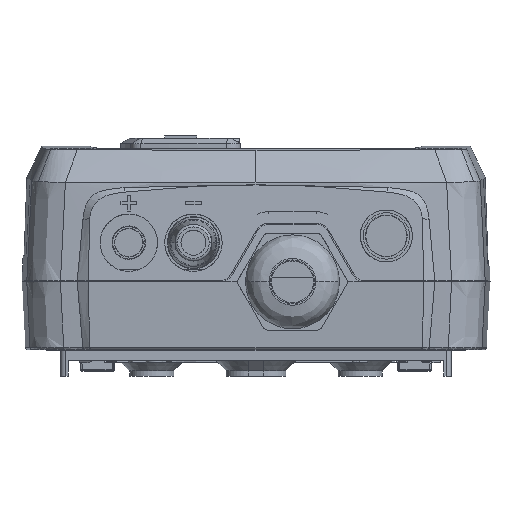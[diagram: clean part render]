
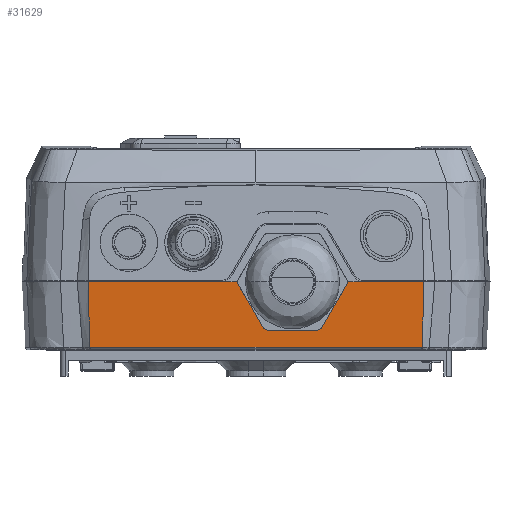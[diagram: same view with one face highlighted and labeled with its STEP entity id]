
A CAD part, front view. The second image highlights one B-rep face of the part: STEP entity #31629.
In plain terms, the highlighted planar face has unit normal (0, -0.999, -0.052).
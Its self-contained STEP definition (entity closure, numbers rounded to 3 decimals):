
#4316=CARTESIAN_POINT('',(31.894,-39.343,
-12.53));
#4318=CARTESIAN_POINT('',(31.894,-39.343,
-12.53));
#4319=CARTESIAN_POINT('',(31.965,-39.425,
-10.965));
#4320=CARTESIAN_POINT('',(32.087,-39.584,
-7.944));
#4321=CARTESIAN_POINT('',(32.196,-39.802,
-3.773));
#4322=CARTESIAN_POINT('',(32.213,-39.936,
-1.219));
#4323=CARTESIAN_POINT('',(32.206,-40.,0.));
#4325=CARTESIAN_POINT('',(-2.21,-40.,0.));
#4326=CARTESIAN_POINT('',(-2.211,-39.972,
-0.543));
#4327=CARTESIAN_POINT('',(-2.118,-39.912,
-1.671));
#4328=CARTESIAN_POINT('',(-1.632,-39.821,
-3.407));
#4329=CARTESIAN_POINT('',(-0.776,-39.734,
-5.081));
#4330=CARTESIAN_POINT('',(0.432,-39.655,
-6.576));
#4331=CARTESIAN_POINT('',(1.923,-39.592,
-7.787));
#4332=CARTESIAN_POINT('',(3.595,-39.547,
-8.648));
#4333=CARTESIAN_POINT('',(5.039,-39.525,
-9.057));
#4334=CARTESIAN_POINT('',(6.176,-39.517,
-9.211));
#4335=CARTESIAN_POINT('',(7.,-39.515,-9.247));
#4336=CARTESIAN_POINT('',(7.824,-39.517,
-9.211));
#4337=CARTESIAN_POINT('',(8.961,-39.525,
-9.057));
#4338=CARTESIAN_POINT('',(10.405,-39.547,
-8.648));
#4339=CARTESIAN_POINT('',(12.077,-39.592,
-7.787));
#4340=CARTESIAN_POINT('',(13.568,-39.655,
-6.576));
#4341=CARTESIAN_POINT('',(14.776,-39.734,
-5.081));
#4342=CARTESIAN_POINT('',(15.632,-39.821,
-3.407));
#4343=CARTESIAN_POINT('',(16.118,-39.912,
-1.671));
#4344=CARTESIAN_POINT('',(16.211,-39.972,
-0.543));
#4345=CARTESIAN_POINT('',(16.21,-40.,0.));
#4347=DIRECTION('',(-1.,0.,0.));
#4348=VECTOR('',#4347,4.585);
#4349=CARTESIAN_POINT('',(20.794,-40.,0.));
#4350=LINE('',#4349,#4348);
#4351=DIRECTION('',(1.,0.,0.));
#4352=VECTOR('',#4351,63.788);
#4353=CARTESIAN_POINT('',(-31.894,-39.343,
-12.53));
#4354=LINE('',#4353,#4352);
#4355=DIRECTION('',(-1.,0.,0.));
#4356=VECTOR('',#4355,4.585);
#4357=CARTESIAN_POINT('',(-2.21,-40.,0.));
#4358=LINE('',#4357,#4356);
#5242=DIRECTION('',(-1.,0.,0.));
#5243=VECTOR('',#5242,25.412);
#5244=CARTESIAN_POINT('',(-6.794,-40.,0.));
#5245=LINE('',#5244,#5243);
#5350=DIRECTION('',(-1.,0.,0.));
#5351=VECTOR('',#5350,11.412);
#5352=CARTESIAN_POINT('',(32.206,-40.,0.));
#5353=LINE('',#5352,#5351);
#5502=CARTESIAN_POINT('',(-6.794,-40.,0.));
#5564=CARTESIAN_POINT('',(20.794,-40.,0.));
#5631=CARTESIAN_POINT('',(-31.894,-39.343,
-12.53));
#5638=CARTESIAN_POINT('',(-31.894,-39.343,
-12.53));
#5639=CARTESIAN_POINT('',(-31.965,-39.425,
-10.965));
#5640=CARTESIAN_POINT('',(-32.087,-39.584,
-7.944));
#5641=CARTESIAN_POINT('',(-32.196,-39.802,
-3.773));
#5642=CARTESIAN_POINT('',(-32.213,-39.936,
-1.219));
#5643=CARTESIAN_POINT('',(-32.206,-40.,0.));
#24049=VERTEX_POINT('',#4316);
#24052=VERTEX_POINT('',#5631);
#24169=CARTESIAN_POINT('',(32.206,-40.,0.));
#24170=VERTEX_POINT('',#24169);
#24171=CARTESIAN_POINT('',(-32.206,-40.,0.));
#24172=VERTEX_POINT('',#24171);
#24181=VERTEX_POINT('',#5564);
#24182=VERTEX_POINT('',#5502);
#24183=VERTEX_POINT('',#4325);
#24184=VERTEX_POINT('',#4345);
#31607=CARTESIAN_POINT('',(32.206,-40.,0.));
#31608=DIRECTION('',(0.,0.999,0.052));
#31609=DIRECTION('',(1.,0.,0.));
#31610=AXIS2_PLACEMENT_3D('',#31607,#31608,#31609);
#31611=PLANE('',#31610);
#31613=ORIENTED_EDGE('',*,*,#31612,.T.);
#31615=ORIENTED_EDGE('',*,*,#31614,.F.);
#31617=ORIENTED_EDGE('',*,*,#31616,.F.);
#31618=ORIENTED_EDGE('',*,*,#31598,.F.);
#31620=ORIENTED_EDGE('',*,*,#31619,.F.);
#31622=ORIENTED_EDGE('',*,*,#31621,.T.);
#31624=ORIENTED_EDGE('',*,*,#31623,.F.);
#31626=ORIENTED_EDGE('',*,*,#31625,.F.);
#31627=EDGE_LOOP('',(#31613,#31615,#31617,#31618,#31620,#31622,#31624,#31626));
#31628=FACE_OUTER_BOUND('',#31627,.F.);
#4324=B_SPLINE_CURVE_WITH_KNOTS('',3,(#4318,#4319,#4320,#4321,#4322,#4323),
.UNSPECIFIED.,.F.,.F.,(4,1,1,4),(0.,0.333,0.667,1.),
.UNSPECIFIED.);
#4346=B_SPLINE_CURVE_WITH_KNOTS('',3,(#4325,#4326,#4327,#4328,#4329,#4330,#4331,
#4332,#4333,#4334,#4335,#4336,#4337,#4338,#4339,#4340,#4341,#4342,#4343,#4344,
#4345),.UNSPECIFIED.,.F.,.F.,(4,1,1,1,1,1,1,1,1,1,1,1,1,1,1,1,1,1,4),(0.,
0.063,0.125,0.188,0.25,0.313,0.375,0.438,0.469,0.5,
0.531,0.563,0.625,0.688,0.75,0.813,0.875,0.938,1.),
.UNSPECIFIED.);
#5644=B_SPLINE_CURVE_WITH_KNOTS('',3,(#5638,#5639,#5640,#5641,#5642,#5643),
.UNSPECIFIED.,.F.,.F.,(4,1,1,4),(0.,0.333,0.667,1.),
.UNSPECIFIED.);
#31598=EDGE_CURVE('',#24049,#24170,#4324,.T.);
#31612=EDGE_CURVE('',#24183,#24184,#4346,.T.);
#31614=EDGE_CURVE('',#24181,#24184,#4350,.T.);
#31616=EDGE_CURVE('',#24170,#24181,#5353,.T.);
#31619=EDGE_CURVE('',#24052,#24049,#4354,.T.);
#31621=EDGE_CURVE('',#24052,#24172,#5644,.T.);
#31623=EDGE_CURVE('',#24182,#24172,#5245,.T.);
#31625=EDGE_CURVE('',#24183,#24182,#4358,.T.);
#31629=ADVANCED_FACE('',(#31628),#31611,.F.);
